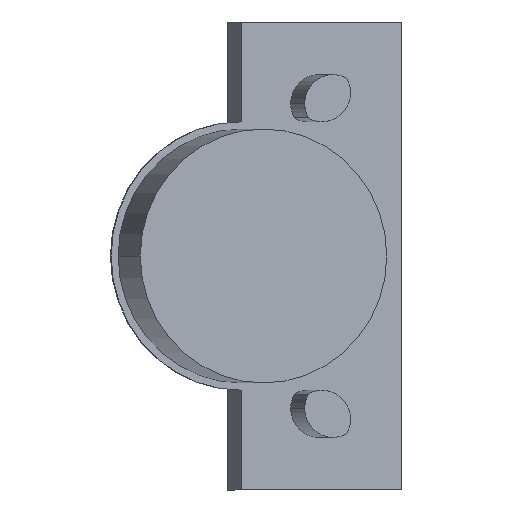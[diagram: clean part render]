
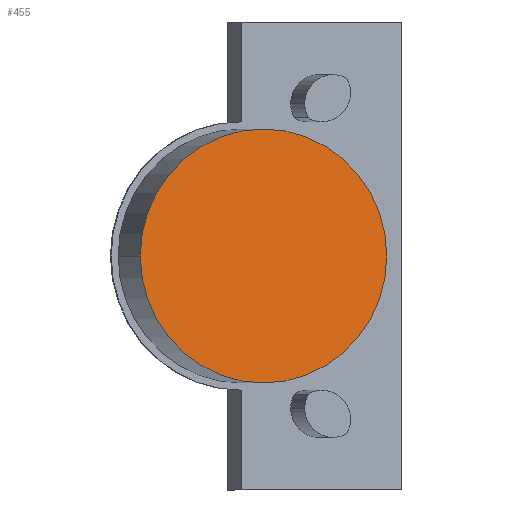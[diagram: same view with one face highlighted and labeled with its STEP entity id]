
A CAD part, front view. The second image highlights one B-rep face of the part: STEP entity #455.
In plain terms, the highlighted planar face has unit normal (0.242, -0.97, 0).
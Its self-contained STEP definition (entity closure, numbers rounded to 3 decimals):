
#36 = FACE_OUTER_BOUND ( 'NONE', #1262, .T. ) ;
#123 = CARTESIAN_POINT ( 'NONE',  ( -6.932, -56.119, 0. ) ) ;
#228 = CIRCLE ( 'NONE', #620, 17.5 ) ;
#322 = ORIENTED_EDGE ( 'NONE', *, *, #959, .T. ) ;
#380 = CARTESIAN_POINT ( 'NONE',  ( 10.048, -51.886, 0. ) ) ;
#398 = VERTEX_POINT ( 'NONE', #123 ) ;
#424 = CIRCLE ( 'NONE', #1175, 17.5 ) ;
#433 = AXIS2_PLACEMENT_3D ( 'NONE', #380, #1345, #849 ) ;
#455 = ADVANCED_FACE ( 'NONE', ( #36 ), #978, .T. ) ;
#510 = DIRECTION ( 'NONE',  ( 0.97, 0.242, 0. ) ) ;
#548 = VERTEX_POINT ( 'NONE', #733 ) ;
#620 = AXIS2_PLACEMENT_3D ( 'NONE', #1212, #1095, #510 ) ;
#672 = DIRECTION ( 'NONE',  ( 0.97, 0.242, 0. ) ) ;
#733 = CARTESIAN_POINT ( 'NONE',  ( 27.028, -47.652, 0. ) ) ;
#755 = DIRECTION ( 'NONE',  ( 0.242, -0.97, 0. ) ) ;
#837 = ORIENTED_EDGE ( 'NONE', *, *, #1045, .T. ) ;
#849 = DIRECTION ( 'NONE',  ( 0.97, 0.242, 0. ) ) ;
#886 = CARTESIAN_POINT ( 'NONE',  ( 10.048, -51.886, 0. ) ) ;
#959 = EDGE_CURVE ( 'NONE', #398, #548, #228, .T. ) ;
#978 = PLANE ( 'NONE',  #433 ) ;
#1045 = EDGE_CURVE ( 'NONE', #548, #398, #424, .T. ) ;
#1095 = DIRECTION ( 'NONE',  ( 0.242, -0.97, 0. ) ) ;
#1175 = AXIS2_PLACEMENT_3D ( 'NONE', #886, #755, #672 ) ;
#1212 = CARTESIAN_POINT ( 'NONE',  ( 10.048, -51.886, 0. ) ) ;
#1262 = EDGE_LOOP ( 'NONE', ( #322, #837 ) ) ;
#1345 = DIRECTION ( 'NONE',  ( 0.242, -0.97, 0. ) ) ;
